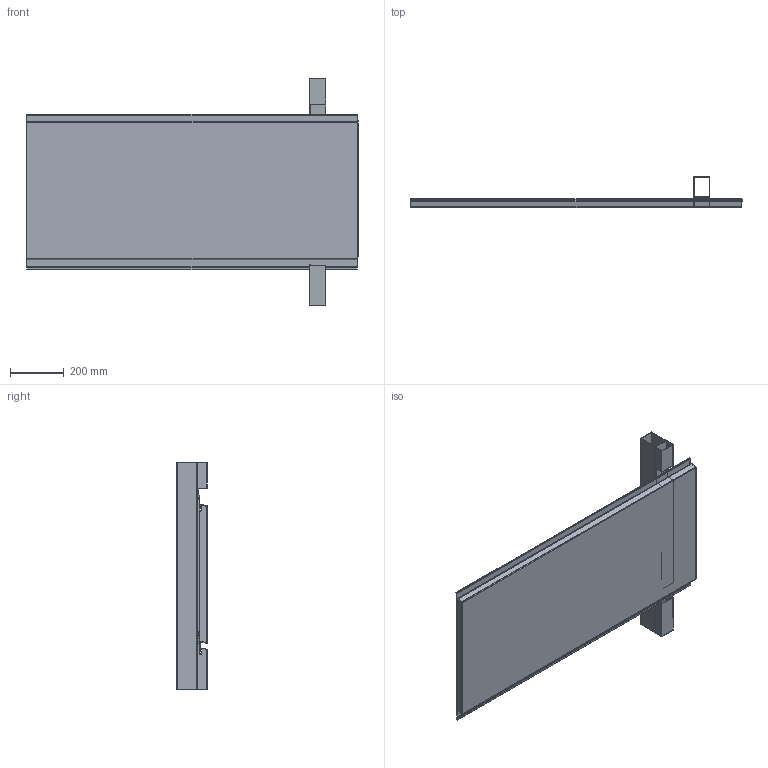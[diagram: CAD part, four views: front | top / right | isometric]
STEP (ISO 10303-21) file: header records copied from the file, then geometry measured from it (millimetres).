
FILE_DESCRIPTION(/* description */ (''),/* implementation_level */ '2;1');
FILE_NAME(/* name */ 'PRO+BIM',/* time_stamp */ '2023-05-22T09:20:55+02:00',/* author */ (''),/* organization */ (''),/* preprocessor_version */ 'ST-DEVELOPER v16.5',/* originating_system */ 'HiCAD 2023 2801.1 Build 323',/* authorisation */ '');
FILE_SCHEMA (('AUTOMOTIVE_DESIGN { 1 0 10303 214 1 1 1 1 }'));
Length unit declared in the file: millimetre
Products named in the file (4): Root; Pro+_Baugruppe_57; Alublech 1.5 mm_Kantblech_5049; Pro+ 115 Modulleiste_101*
Assembly tree (3 placements, depth 3):
  Root
    Pro+_Baugruppe_57
      Alublech 1.5 mm_Kantblech_5049
    Pro+ 115 Modulleiste_101*
Bounding box: 1239 x 116.96 x 848.25 mm (x, y, z)
Volume: 2039746.4 mm3; surface area: 2381345.9 mm2
Topology: 2 solids, 2 shells, 132 faces, 372 edges, 242 vertices
Faces by surface type: plane 96, cylinder 36
Entity records: 8033 total; most frequent: CARTESIAN_POINT 752, PRESENTATION_STYLE_ASSIGNMENT 746, COLOUR_RGB 746, DRAUGHTING_PRE_DEFINED_CURVE_FONT 744, CURVE_STYLE 744, OVER_RIDING_STYLED_ITEM 744, ORIENTED_EDGE 744, DIRECTION 720
